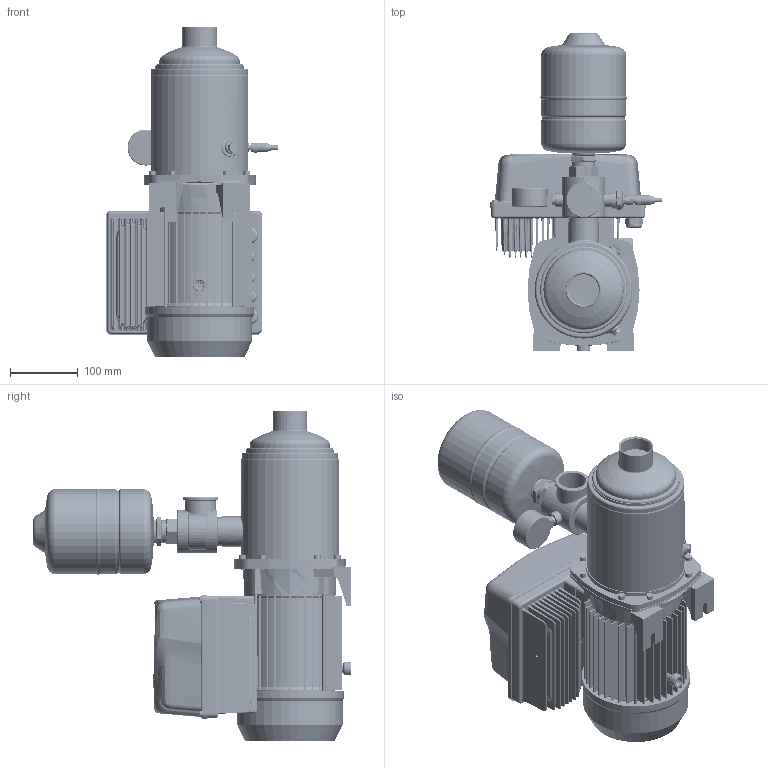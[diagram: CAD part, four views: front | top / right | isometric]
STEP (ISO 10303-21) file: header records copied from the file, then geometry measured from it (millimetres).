
FILE_DESCRIPTION((''),'2;1');
FILE_NAME('1GPE_MATRIX_10-5T_2-2_ESPM_ASM','2024-12-02T15:06:05',('Utente'),('"Ebara Pumps Europe S.p.A"'),'CREO PARAMETRIC BY PTC INC, 2022124','CREO PARAMETRIC BY PTC INC, 2022124','');
FILE_SCHEMA(('AUTOMOTIVE_DESIGN { 1 0 10303 214 1 1 1 1 }'));
Length unit declared in the file: millimetre
Products named in the file (14): EP_MATRIX10-5T_2-2_IE3; EP_MATRIX_10-5T_2-2_ASM; ADATTATORE_E-SPD_MEC80-90-100; E-SPD_ADATTATORE_MEC80-90-100_ASM; BACK_E-SPD_PLUS_2200-4000; COVER_E-SPD_PLUS_2200-4000; COM_E-SPDM_MEC80-90-100_ORIZ_ASM; RACC_5_VIE_NR_1_1-4_A304; TRASD_ASHCROFT_M12_GEN; CABLE_M12_FEMALE; TRASD_ASHCROFT_10B_MP_362331051_ASM; MAN_RAD_D50_10BAR_361600160; VASO_ESPANSIONE_2L_GWS; 1GPE_MATRIX_10-5T_2-2_ESPM_ASM
Assembly tree (13 placements, depth 3):
  1GPE_MATRIX_10-5T_2-2_ESPM_ASM
    EP_MATRIX_10-5T_2-2_ASM
      EP_MATRIX10-5T_2-2_IE3
    E-SPD_ADATTATORE_MEC80-90-100_ASM
      ADATTATORE_E-SPD_MEC80-90-100
    COM_E-SPDM_MEC80-90-100_ORIZ_ASM
      BACK_E-SPD_PLUS_2200-4000
      COVER_E-SPD_PLUS_2200-4000
    RACC_5_VIE_NR_1_1-4_A304
    TRASD_ASHCROFT_10B_MP_362331051_ASM
      TRASD_ASHCROFT_M12_GEN
      CABLE_M12_FEMALE
    MAN_RAD_D50_10BAR_361600160
    VASO_ESPANSIONE_2L_GWS
Bounding box: 252.74 x 468.31 x 486.8 mm (x, y, z)
Volume: 5431063.9 mm3; surface area: 1363861.4 mm2
Topology: 91 solids, 512 shells, 12013 faces, 30521 edges, 18116 vertices
Faces by surface type: plane 6002, cylinder 2631, sphere 1047, bspline 950, cone 482, torus 466, extrusion 435
Entity records: 488852 total; most frequent: CARTESIAN_POINT 173651, ORIENTED_EDGE 56207, DIRECTION 53523, EDGE_CURVE 29044, VERTEX_POINT 17996, VECTOR 17857, AXIS2_PLACEMENT_3D 17814, LINE 17422
